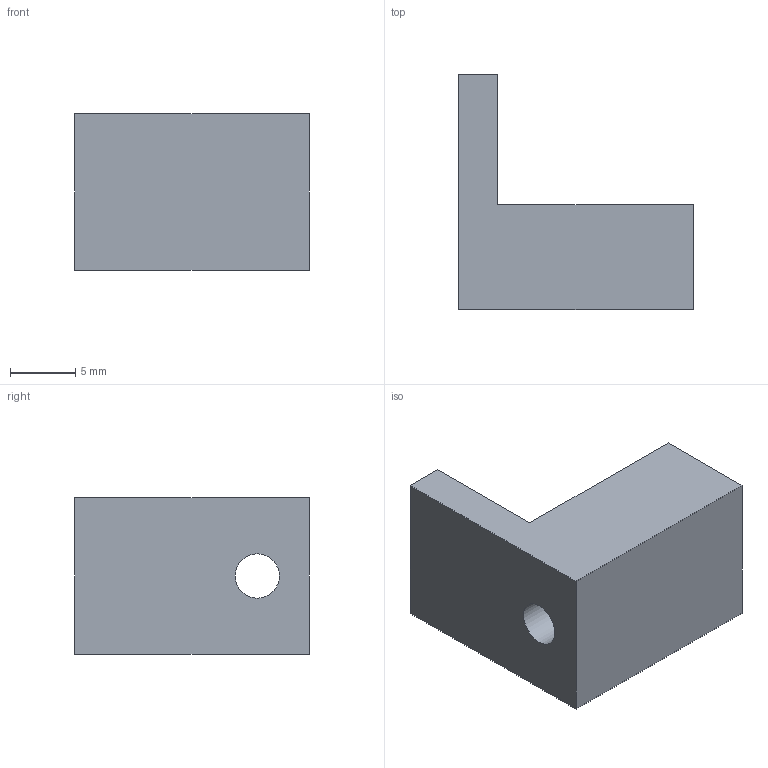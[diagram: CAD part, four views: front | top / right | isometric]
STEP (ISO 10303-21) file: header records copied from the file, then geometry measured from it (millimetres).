
FILE_DESCRIPTION(('Open CASCADE Model'),'2;1');
FILE_NAME('Open CASCADE Shape Model','2026-10-06T19:56:10',('Author'),( 'Open CASCADE'),'Open CASCADE STEP processor 7.9','Open CASCADE 7.9' ,'Unknown');
FILE_SCHEMA(('AUTOMOTIVE_DESIGN { 1 0 10303 214 1 1 1 1 }'));
Length unit declared in the file: millimetre
Products named in the file (1): Open CASCADE STEP translator 7.9 41
Bounding box: 18 x 18 x 12 mm (x, y, z)
Volume: 1924.6 mm3; surface area: 1386.1 mm2
Topology: 1 solids, 1 shells, 9 faces, 21 edges, 14 vertices
Faces by surface type: plane 8, cylinder 1
Full cylindrical faces by diameter (mm): 3.4 x1
Entity records: 544 total; most frequent: CARTESIAN_POINT 87, DIRECTION 85, LINE 59, VECTOR 59, ORIENTED_EDGE 42, PCURVE 42, DEFINITIONAL_REPRESENTATION 42, EDGE_CURVE 21
